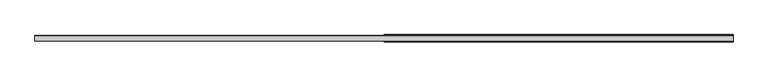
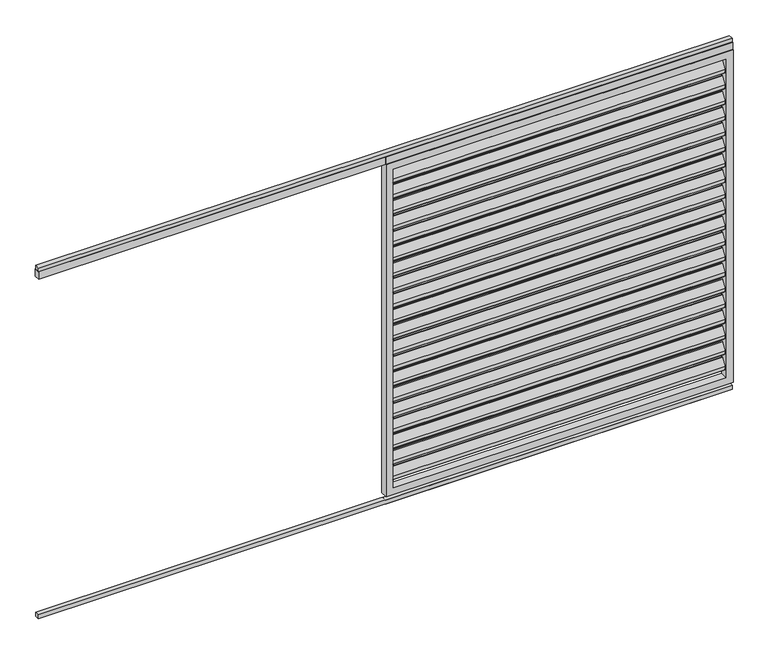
"""IFC4 building model written with IfcOpenShell, lengths in millimetres: proxy geometry, Renson_Algarve_Loggia_Paro_Aluminium : Renson_Algarve_Loggia_Paro_Aluminium."""

import ifcopenshell
import ifcopenshell.guid

model = None  # the IFC model being written
_history = None  # IfcOwnerHistory: only IFC2X3 demands one
_inside = {}  # id of a spatial element -> (the spatial element, [elements in it])
_under = {}  # id of a project, library or spatial element -> (it, [spatial elements below it])
_declared = {}  # id of a project -> (the project, [libraries it declares])
_typed = {}  # id of a type object -> (the type object, [elements of that type])
_made_of = {}  # id of a material, layer set ... -> (it, [elements and type objects made of it])


def new_model(schema):
    """Start an empty IFC model of exactly this schema.

    Asked for "IFC4X3", IfcOpenShell would pick the latest addendum, in which some entities
    have other attributes; the version numbers below select the first issue.
    IFC2X3 requires an IfcOwnerHistory on every rooted entity: one is made here for all.
    """
    global model, _history
    if schema == "IFC4X3":
        model = ifcopenshell.file(schema_version=(4, 3, 0, 0))
    else:
        model = ifcopenshell.file(schema=schema)
    _inside.clear()
    _under.clear()
    _declared.clear()
    _typed.clear()
    _made_of.clear()
    _history = None
    if model.schema == "IFC2X3":
        org = make("IfcOrganization", Name="unknown")
        user = make(
            "IfcPersonAndOrganization",
            ThePerson=make("IfcPerson", FamilyName="unknown"),
            TheOrganization=org,
        )
        app = make(
            "IfcApplication",
            ApplicationDeveloper=org,
            Version="unknown",
            ApplicationFullName="unknown",
            ApplicationIdentifier="unknown",
        )
        _history = make(
            "IfcOwnerHistory",
            OwningUser=user,
            OwningApplication=app,
            ChangeAction="ADDED",
            CreationDate=0,
        )
    return model


def make(cls, **values):
    """One entity of the class cls with the attributes given. An attribute that is None is left unset."""
    return model.create_entity(
        cls, **{name: value for name, value in values.items() if value is not None}
    )


def rooted(cls, **values):
    """An entity with a GlobalId (a new one), such as an element, a storey or a relation."""
    return make(cls, GlobalId=ifcopenshell.guid.new(), OwnerHistory=_history, **values)


def si_unit(unit_type, name, prefix=None):
    """IfcSIUnit, for example si_unit("LENGTHUNIT", "METRE", prefix="MILLI")."""
    return make("IfcSIUnit", UnitType=unit_type, Prefix=prefix, Name=name)


def assignment(units):
    """IfcUnitAssignment: the units of a project."""
    return None if units is None else make("IfcUnitAssignment", Units=units)


def point(xyz):
    """IfcCartesianPoint."""
    return None if xyz is None else make("IfcCartesianPoint", Coordinates=xyz)


def direction(xyz):
    """IfcDirection."""
    return None if xyz is None else make("IfcDirection", DirectionRatios=xyz)


def frame(location, z_axis=None, x_axis=None):
    """IfcAxis2Placement3D, a coordinate frame: its origin and axes. An axis left out is left unset."""
    return make(
        "IfcAxis2Placement3D",
        Location=point(location),
        Axis=direction(z_axis),
        RefDirection=direction(x_axis),
    )


def frame_2d(location, x_axis=None):
    """IfcAxis2Placement2D, a coordinate frame in the plane: its origin and x axis."""
    return make(
        "IfcAxis2Placement2D", Location=point(location), RefDirection=direction(x_axis)
    )


def origin():
    """The frame at (0, 0, 0) with its axes left unset."""
    return frame((0.0, 0.0, 0.0))


def origin_with_axes():
    """The frame at (0, 0, 0) with the z axis (0, 0, 1) and the x axis (1, 0, 0) written out."""
    return frame((0.0, 0.0, 0.0), z_axis=(0.0, 0.0, 1.0), x_axis=(1.0, 0.0, 0.0))


def place(relative_to, where):
    """IfcLocalPlacement: puts the frame where relative to a parent placement (None: the world)."""
    return make(
        "IfcLocalPlacement", PlacementRelTo=relative_to, RelativePlacement=where
    )


def context(
    kind, dimensions, precision=None, world=None, true_north=None, identifier=None
):
    """IfcGeometricRepresentationContext, for example the 3D "Model" context."""
    return make(
        "IfcGeometricRepresentationContext",
        ContextIdentifier=identifier,
        ContextType=kind,
        CoordinateSpaceDimension=dimensions,
        Precision=precision,
        WorldCoordinateSystem=world,
        TrueNorth=true_north,
    )


def project(units=None, contexts=None):
    """IfcProject with its units and contexts."""
    return rooted(
        "IfcProject",
        Name="project",
        RepresentationContexts=contexts,
        UnitsInContext=assignment(units),
    )


def spatial(cls, under=None, at=None, **own):
    """A site, building, storey or space (cls), placed at a placement, below another one or the project."""
    s = rooted(cls, ObjectPlacement=at, **own)
    if under is not None:
        _under.setdefault(under.id(), (under, []))[1].append(s)
    return s


def polyline(points):
    """IfcPolyline through the points."""
    return make("IfcPolyline", Points=[point(p) for p in points])


def circle_curve(where, radius):
    """IfcCircle in the frame where."""
    return make("IfcCircle", Position=where, Radius=radius)


def trimmed(basis, trim1, trim2, sense, master):
    """IfcTrimmedCurve: the piece of a basis curve between two trims."""
    return make(
        "IfcTrimmedCurve",
        BasisCurve=basis,
        Trim1=trim1,
        Trim2=trim2,
        SenseAgreement=sense,
        MasterRepresentation=master,
    )


def segment(curve, same_sense, transition):
    """IfcCompositeCurveSegment."""
    return make(
        "IfcCompositeCurveSegment",
        Transition=transition,
        SameSense=same_sense,
        ParentCurve=curve,
    )


def composite_curve(segments, self_intersect=None):
    """IfcCompositeCurve: segments joined end to end."""
    return make("IfcCompositeCurve", Segments=segments, SelfIntersect=self_intersect)


def outline(outer, holes=None, kind="AREA"):
    """IfcArbitraryClosedProfileDef: a profile drawn as a closed curve; with holes, ...WithVoids."""
    if holes is None:
        return make("IfcArbitraryClosedProfileDef", ProfileType=kind, OuterCurve=outer)
    return make(
        "IfcArbitraryProfileDefWithVoids",
        ProfileType=kind,
        OuterCurve=outer,
        InnerCurves=holes,
    )


def extrude(swept, where, along, depth):
    """IfcExtrudedAreaSolid: the profile swept, set in the frame where, extruded along a direction by depth."""
    return make(
        "IfcExtrudedAreaSolid",
        SweptArea=swept,
        Position=where,
        ExtrudedDirection=direction(along),
        Depth=depth,
    )


def shape(context_of_items, identifier, shape_type, items):
    """IfcShapeRepresentation: the items that make up one representation, for example the "Body"."""
    return make(
        "IfcShapeRepresentation",
        ContextOfItems=context_of_items,
        RepresentationIdentifier=identifier,
        RepresentationType=shape_type,
        Items=items,
    )


def source(mapping_origin, context_of_items, identifier, shape_type, items):
    """IfcRepresentationMap: a shape defined once, which mapped items show again and again."""
    return make(
        "IfcRepresentationMap",
        MappingOrigin=mapping_origin,
        MappedRepresentation=shape(context_of_items, identifier, shape_type, items),
    )


def transform(
    local_origin,
    x_axis=None,
    y_axis=None,
    z_axis=None,
    scale=None,
    scale2=None,
    scale3=None,
    uniform=True,
):
    """IfcCartesianTransformationOperator3D, or its non-uniform kind. x_axis, y_axis, z_axis: its Axis1, 2, 3."""
    if uniform:
        return make(
            "IfcCartesianTransformationOperator3D",
            Axis1=direction(x_axis),
            Axis2=direction(y_axis),
            LocalOrigin=point(local_origin),
            Scale=scale,
            Axis3=direction(z_axis),
        )
    return make(
        "IfcCartesianTransformationOperator3DnonUniform",
        Axis1=direction(x_axis),
        Axis2=direction(y_axis),
        LocalOrigin=point(local_origin),
        Scale=scale,
        Axis3=direction(z_axis),
        Scale2=scale2,
        Scale3=scale3,
    )


def mapped(mapping_source, mapping_target):
    """IfcMappedItem: shows the shape of a source again, moved by a transform."""
    return make(
        "IfcMappedItem", MappingSource=mapping_source, MappingTarget=mapping_target
    )


def made_of(thing, what):
    """Note that an element or type object is made of a material, layer set ...; save() writes the relation."""
    if what is not None:
        _made_of.setdefault(what.id(), (what, []))[1].append(thing)
    return thing


def element(
    cls,
    number,
    at=None,
    inside=None,
    cuts=None,
    type_object=None,
    material=None,
    context=None,
    identifier="Body",
    shape_type=None,
    held_by="IfcProductDefinitionShape",
    body=None,
    shapes=None,
    **own,
):
    """One element of the class cls, such as IfcWall. Its Tag is "e" and its number.

    at: its placement. inside: the storey or other place that contains it. cuts: it is an
    opening in that element (IfcRelVoidsElement). A single representation is given by context,
    identifier, shape_type and body (its items); several are given by shapes. held_by: the class
    of the entity that holds the representations. save() writes the other relations.
    """
    e = rooted(cls, Tag="e%d" % number, ObjectPlacement=at, **own)
    if body is not None:
        shapes = [shape(context, identifier, shape_type, body)]
    if shapes is not None:
        e.Representation = make(held_by, Representations=shapes)
    if inside is not None:
        _inside.setdefault(inside.id(), (inside, []))[1].append(e)
    if cuts is not None:
        rooted(
            "IfcRelVoidsElement", RelatingBuildingElement=cuts, RelatedOpeningElement=e
        )
    if type_object is not None:
        _typed.setdefault(type_object.id(), (type_object, []))[1].append(e)
    return made_of(e, material)


def aggregate(whole, parts):
    """IfcRelAggregates: a whole, such as a stair, and the parts it consists of."""
    return rooted("IfcRelAggregates", RelatingObject=whole, RelatedObjects=parts)


def save(model, path):
    """Write the relations noted so far, then the file.

    IfcRelAggregates (storeys below a building ...), IfcRelContainedInSpatialStructure (elements
    in a storey), IfcRelDefinesByType, IfcRelAssociatesMaterial and IfcRelDeclares: one each for
    every whole, place, type object, material and project.
    """
    for whole, parts in _under.values():
        aggregate(whole, parts)
    for where, things in _inside.values():
        rooted(
            "IfcRelContainedInSpatialStructure",
            RelatedElements=things,
            RelatingStructure=where,
        )
    for kind, things in _typed.values():
        rooted("IfcRelDefinesByType", RelatedObjects=things, RelatingType=kind)
    for what, things in _made_of.values():
        rooted("IfcRelAssociatesMaterial", RelatedObjects=things, RelatingMaterial=what)
    for by, libraries in _declared.values():
        rooted("IfcRelDeclares", RelatingContext=by, RelatedDefinitions=libraries)
    model.write(path)


def generic_models_5f8b4816(model_context):
    return source(origin(), model_context, "Body", "SweptSolid", [
        extrude(outline(composite_curve([segment(trimmed(circle_curve(frame_2d((12.6675921, 1892.6587719)), 3.0), [point((10.1515804, 1894.292689))], [point((15.6675921, 1892.6587719))], False, "CARTESIAN"), True, "CONTINUOUS"), segment(polyline([(15.6675921, 1892.6587719), (15.6675921, 1874.2979873)]), True, "CONTINUOUS"), segment(trimmed(circle_curve(frame_2d((12.6675921, 1874.2979873)), 3.0), [point((15.6675921, 1874.2979873))], [point((15.1836038, 1872.6640702))], False, "CARTESIAN"), True, "CONTINUOUS"), segment(polyline([(15.1836038, 1872.6640702), (-8.8163962, 1835.707311)]), True, "CONTINUOUS"), segment(trimmed(circle_curve(frame_2d((-11.3324079, 1837.3412281)), 3.0), [point((-8.8163962, 1835.707311))], [point((-14.3324079, 1837.3412281))], False, "CARTESIAN"), True, "CONTINUOUS"), segment(polyline([(-14.3324079, 1837.3412281), (-14.3324079, 1856.5906532), (10.1515804, 1894.292689)]), True, "CONTINUOUS")], self_intersect=False)), frame((-905.0, 0.0, 0.0), z_axis=(1.0, 0.0, 0.0), x_axis=(0.0, 1.0, 0.0)), (0.0, 0.0, 1.0), 1810.0),
        extrude(outline(composite_curve([segment(trimmed(circle_curve(frame_2d((12.6675921, 1802.6587719)), 3.0), [point((10.1515804, 1804.292689))], [point((15.6675921, 1802.6587719))], False, "CARTESIAN"), True, "CONTINUOUS"), segment(polyline([(15.6675921, 1802.6587719), (15.6675921, 1784.2979873)]), True, "CONTINUOUS"), segment(trimmed(circle_curve(frame_2d((12.6675921, 1784.2979873)), 3.0), [point((15.6675921, 1784.2979873))], [point((15.1836038, 1782.6640702))], False, "CARTESIAN"), True, "CONTINUOUS"), segment(polyline([(15.1836038, 1782.6640702), (-8.8163962, 1745.707311)]), True, "CONTINUOUS"), segment(trimmed(circle_curve(frame_2d((-11.3324079, 1747.3412281)), 3.0), [point((-8.8163962, 1745.707311))], [point((-14.3324079, 1747.3412281))], False, "CARTESIAN"), True, "CONTINUOUS"), segment(polyline([(-14.3324079, 1747.3412281), (-14.3324079, 1766.5906532), (10.1515804, 1804.292689)]), True, "CONTINUOUS")], self_intersect=False)), frame((-905.0, 0.0, 0.0), z_axis=(1.0, 0.0, 0.0), x_axis=(0.0, 1.0, 0.0)), (0.0, 0.0, 1.0), 1810.0),
        extrude(outline(composite_curve([segment(trimmed(circle_curve(frame_2d((12.6675921, 1712.6587719)), 3.0), [point((10.1515804, 1714.292689))], [point((15.6675921, 1712.6587719))], False, "CARTESIAN"), True, "CONTINUOUS"), segment(polyline([(15.6675921, 1712.6587719), (15.6675921, 1694.2979873)]), True, "CONTINUOUS"), segment(trimmed(circle_curve(frame_2d((12.6675921, 1694.2979873)), 3.0), [point((15.6675921, 1694.2979873))], [point((15.1836038, 1692.6640702))], False, "CARTESIAN"), True, "CONTINUOUS"), segment(polyline([(15.1836038, 1692.6640702), (-8.8163962, 1655.707311)]), True, "CONTINUOUS"), segment(trimmed(circle_curve(frame_2d((-11.3324079, 1657.3412281)), 3.0), [point((-8.8163962, 1655.707311))], [point((-14.3324079, 1657.3412281))], False, "CARTESIAN"), True, "CONTINUOUS"), segment(polyline([(-14.3324079, 1657.3412281), (-14.3324079, 1676.5906532), (10.1515804, 1714.292689)]), True, "CONTINUOUS")], self_intersect=False)), frame((-905.0, 0.0, 0.0), z_axis=(1.0, 0.0, 0.0), x_axis=(0.0, 1.0, 0.0)), (0.0, 0.0, 1.0), 1810.0),
        extrude(outline(composite_curve([segment(trimmed(circle_curve(frame_2d((12.6675921, 1622.6587719)), 3.0), [point((10.1515804, 1624.292689))], [point((15.6675921, 1622.6587719))], False, "CARTESIAN"), True, "CONTINUOUS"), segment(polyline([(15.6675921, 1622.6587719), (15.6675921, 1604.2979873)]), True, "CONTINUOUS"), segment(trimmed(circle_curve(frame_2d((12.6675921, 1604.2979873)), 3.0), [point((15.6675921, 1604.2979873))], [point((15.1836038, 1602.6640702))], False, "CARTESIAN"), True, "CONTINUOUS"), segment(polyline([(15.1836038, 1602.6640702), (-8.8163962, 1565.707311)]), True, "CONTINUOUS"), segment(trimmed(circle_curve(frame_2d((-11.3324079, 1567.3412281)), 3.0), [point((-8.8163962, 1565.707311))], [point((-14.3324079, 1567.3412281))], False, "CARTESIAN"), True, "CONTINUOUS"), segment(polyline([(-14.3324079, 1567.3412281), (-14.3324079, 1586.5906532), (10.1515804, 1624.292689)]), True, "CONTINUOUS")], self_intersect=False)), frame((-905.0, 0.0, 0.0), z_axis=(1.0, 0.0, 0.0), x_axis=(0.0, 1.0, 0.0)), (0.0, 0.0, 1.0), 1810.0),
        extrude(outline(composite_curve([segment(trimmed(circle_curve(frame_2d((12.6675921, 1532.6587719)), 3.0), [point((10.1515804, 1534.292689))], [point((15.6675921, 1532.6587719))], False, "CARTESIAN"), True, "CONTINUOUS"), segment(polyline([(15.6675921, 1532.6587719), (15.6675921, 1514.2979873)]), True, "CONTINUOUS"), segment(trimmed(circle_curve(frame_2d((12.6675921, 1514.2979873)), 3.0), [point((15.6675921, 1514.2979873))], [point((15.1836038, 1512.6640702))], False, "CARTESIAN"), True, "CONTINUOUS"), segment(polyline([(15.1836038, 1512.6640702), (-8.8163962, 1475.707311)]), True, "CONTINUOUS"), segment(trimmed(circle_curve(frame_2d((-11.3324079, 1477.3412281)), 3.0), [point((-8.8163962, 1475.707311))], [point((-14.3324079, 1477.3412281))], False, "CARTESIAN"), True, "CONTINUOUS"), segment(polyline([(-14.3324079, 1477.3412281), (-14.3324079, 1496.5906532), (10.1515804, 1534.292689)]), True, "CONTINUOUS")], self_intersect=False)), frame((-905.0, 0.0, 0.0), z_axis=(1.0, 0.0, 0.0), x_axis=(0.0, 1.0, 0.0)), (0.0, 0.0, 1.0), 1810.0),
        extrude(outline(composite_curve([segment(trimmed(circle_curve(frame_2d((12.6675921, 1442.6587719)), 3.0), [point((10.1515804, 1444.292689))], [point((15.6675921, 1442.6587719))], False, "CARTESIAN"), True, "CONTINUOUS"), segment(polyline([(15.6675921, 1442.6587719), (15.6675921, 1424.2979873)]), True, "CONTINUOUS"), segment(trimmed(circle_curve(frame_2d((12.6675921, 1424.2979873)), 3.0), [point((15.6675921, 1424.2979873))], [point((15.1836038, 1422.6640702))], False, "CARTESIAN"), True, "CONTINUOUS"), segment(polyline([(15.1836038, 1422.6640702), (-8.8163962, 1385.707311)]), True, "CONTINUOUS"), segment(trimmed(circle_curve(frame_2d((-11.3324079, 1387.3412281)), 3.0), [point((-8.8163962, 1385.707311))], [point((-14.3324079, 1387.3412281))], False, "CARTESIAN"), True, "CONTINUOUS"), segment(polyline([(-14.3324079, 1387.3412281), (-14.3324079, 1406.5906532), (10.1515804, 1444.292689)]), True, "CONTINUOUS")], self_intersect=False)), frame((-905.0, 0.0, 0.0), z_axis=(1.0, 0.0, 0.0), x_axis=(0.0, 1.0, 0.0)), (0.0, 0.0, 1.0), 1810.0),
        extrude(outline(composite_curve([segment(trimmed(circle_curve(frame_2d((12.6675921, 1352.6587719)), 3.0), [point((10.1515804, 1354.292689))], [point((15.6675921, 1352.6587719))], False, "CARTESIAN"), True, "CONTINUOUS"), segment(polyline([(15.6675921, 1352.6587719), (15.6675921, 1334.2979873)]), True, "CONTINUOUS"), segment(trimmed(circle_curve(frame_2d((12.6675921, 1334.2979873)), 3.0), [point((15.6675921, 1334.2979873))], [point((15.1836038, 1332.6640702))], False, "CARTESIAN"), True, "CONTINUOUS"), segment(polyline([(15.1836038, 1332.6640702), (-8.8163962, 1295.707311)]), True, "CONTINUOUS"), segment(trimmed(circle_curve(frame_2d((-11.3324079, 1297.3412281)), 3.0), [point((-8.8163962, 1295.707311))], [point((-14.3324079, 1297.3412281))], False, "CARTESIAN"), True, "CONTINUOUS"), segment(polyline([(-14.3324079, 1297.3412281), (-14.3324079, 1316.5906532), (10.1515804, 1354.292689)]), True, "CONTINUOUS")], self_intersect=False)), frame((-905.0, 0.0, 0.0), z_axis=(1.0, 0.0, 0.0), x_axis=(0.0, 1.0, 0.0)), (0.0, 0.0, 1.0), 1810.0),
        extrude(outline(composite_curve([segment(trimmed(circle_curve(frame_2d((12.6675921, 1262.6587719)), 3.0), [point((10.1515804, 1264.292689))], [point((15.6675921, 1262.6587719))], False, "CARTESIAN"), True, "CONTINUOUS"), segment(polyline([(15.6675921, 1262.6587719), (15.6675921, 1244.2979873)]), True, "CONTINUOUS"), segment(trimmed(circle_curve(frame_2d((12.6675921, 1244.2979873)), 3.0), [point((15.6675921, 1244.2979873))], [point((15.1836038, 1242.6640702))], False, "CARTESIAN"), True, "CONTINUOUS"), segment(polyline([(15.1836038, 1242.6640702), (-8.8163962, 1205.707311)]), True, "CONTINUOUS"), segment(trimmed(circle_curve(frame_2d((-11.3324079, 1207.3412281)), 3.0), [point((-8.8163962, 1205.707311))], [point((-14.3324079, 1207.3412281))], False, "CARTESIAN"), True, "CONTINUOUS"), segment(polyline([(-14.3324079, 1207.3412281), (-14.3324079, 1226.5906532), (10.1515804, 1264.292689)]), True, "CONTINUOUS")], self_intersect=False)), frame((-905.0, 0.0, 0.0), z_axis=(1.0, 0.0, 0.0), x_axis=(0.0, 1.0, 0.0)), (0.0, 0.0, 1.0), 1810.0),
        extrude(outline(composite_curve([segment(trimmed(circle_curve(frame_2d((12.6675921, 1172.6587719)), 3.0), [point((10.1515804, 1174.292689))], [point((15.6675921, 1172.6587719))], False, "CARTESIAN"), True, "CONTINUOUS"), segment(polyline([(15.6675921, 1172.6587719), (15.6675921, 1154.2979873)]), True, "CONTINUOUS"), segment(trimmed(circle_curve(frame_2d((12.6675921, 1154.2979873)), 3.0), [point((15.6675921, 1154.2979873))], [point((15.1836038, 1152.6640702))], False, "CARTESIAN"), True, "CONTINUOUS"), segment(polyline([(15.1836038, 1152.6640702), (-8.8163962, 1115.707311)]), True, "CONTINUOUS"), segment(trimmed(circle_curve(frame_2d((-11.3324079, 1117.3412281)), 3.0), [point((-8.8163962, 1115.707311))], [point((-14.3324079, 1117.3412281))], False, "CARTESIAN"), True, "CONTINUOUS"), segment(polyline([(-14.3324079, 1117.3412281), (-14.3324079, 1136.5906532), (10.1515804, 1174.292689)]), True, "CONTINUOUS")], self_intersect=False)), frame((-905.0, 0.0, 0.0), z_axis=(1.0, 0.0, 0.0), x_axis=(0.0, 1.0, 0.0)), (0.0, 0.0, 1.0), 1810.0),
        extrude(outline(composite_curve([segment(trimmed(circle_curve(frame_2d((12.6675921, 1082.6587719)), 3.0), [point((10.1515804, 1084.292689))], [point((15.6675921, 1082.6587719))], False, "CARTESIAN"), True, "CONTINUOUS"), segment(polyline([(15.6675921, 1082.6587719), (15.6675921, 1064.2979873)]), True, "CONTINUOUS"), segment(trimmed(circle_curve(frame_2d((12.6675921, 1064.2979873)), 3.0), [point((15.6675921, 1064.2979873))], [point((15.1836038, 1062.6640702))], False, "CARTESIAN"), True, "CONTINUOUS"), segment(polyline([(15.1836038, 1062.6640702), (-8.8163962, 1025.707311)]), True, "CONTINUOUS"), segment(trimmed(circle_curve(frame_2d((-11.3324079, 1027.3412281)), 3.0), [point((-8.8163962, 1025.707311))], [point((-14.3324079, 1027.3412281))], False, "CARTESIAN"), True, "CONTINUOUS"), segment(polyline([(-14.3324079, 1027.3412281), (-14.3324079, 1046.5906532), (10.1515804, 1084.292689)]), True, "CONTINUOUS")], self_intersect=False)), frame((-905.0, 0.0, 0.0), z_axis=(1.0, 0.0, 0.0), x_axis=(0.0, 1.0, 0.0)), (0.0, 0.0, 1.0), 1810.0),
        extrude(outline(composite_curve([segment(trimmed(circle_curve(frame_2d((12.6675921, 992.6587719)), 3.0), [point((10.1515804, 994.292689))], [point((15.6675921, 992.6587719))], False, "CARTESIAN"), True, "CONTINUOUS"), segment(polyline([(15.6675921, 992.6587719), (15.6675921, 974.2979873)]), True, "CONTINUOUS"), segment(trimmed(circle_curve(frame_2d((12.6675921, 974.2979873)), 3.0), [point((15.6675921, 974.2979873))], [point((15.1836038, 972.6640702))], False, "CARTESIAN"), True, "CONTINUOUS"), segment(polyline([(15.1836038, 972.6640702), (-8.8163962, 935.707311)]), True, "CONTINUOUS"), segment(trimmed(circle_curve(frame_2d((-11.3324079, 937.3412281)), 3.0), [point((-8.8163962, 935.707311))], [point((-14.3324079, 937.3412281))], False, "CARTESIAN"), True, "CONTINUOUS"), segment(polyline([(-14.3324079, 937.3412281), (-14.3324079, 956.5906532), (10.1515804, 994.292689)]), True, "CONTINUOUS")], self_intersect=False)), frame((-905.0, 0.0, 0.0), z_axis=(1.0, 0.0, 0.0), x_axis=(0.0, 1.0, 0.0)), (0.0, 0.0, 1.0), 1810.0),
        extrude(outline(composite_curve([segment(trimmed(circle_curve(frame_2d((12.6675921, 902.6587719)), 3.0), [point((10.1515804, 904.292689))], [point((15.6675921, 902.6587719))], False, "CARTESIAN"), True, "CONTINUOUS"), segment(polyline([(15.6675921, 902.6587719), (15.6675921, 884.2979873)]), True, "CONTINUOUS"), segment(trimmed(circle_curve(frame_2d((12.6675921, 884.2979873)), 3.0), [point((15.6675921, 884.2979873))], [point((15.1836038, 882.6640702))], False, "CARTESIAN"), True, "CONTINUOUS"), segment(polyline([(15.1836038, 882.6640702), (-8.8163962, 845.707311)]), True, "CONTINUOUS"), segment(trimmed(circle_curve(frame_2d((-11.3324079, 847.3412281)), 3.0), [point((-8.8163962, 845.707311))], [point((-14.3324079, 847.3412281))], False, "CARTESIAN"), True, "CONTINUOUS"), segment(polyline([(-14.3324079, 847.3412281), (-14.3324079, 866.5906532), (10.1515804, 904.292689)]), True, "CONTINUOUS")], self_intersect=False)), frame((-905.0, 0.0, 0.0), z_axis=(1.0, 0.0, 0.0), x_axis=(0.0, 1.0, 0.0)), (0.0, 0.0, 1.0), 1810.0),
        extrude(outline(composite_curve([segment(trimmed(circle_curve(frame_2d((12.6675921, 812.6587719)), 3.0), [point((10.1515804, 814.292689))], [point((15.6675921, 812.6587719))], False, "CARTESIAN"), True, "CONTINUOUS"), segment(polyline([(15.6675921, 812.6587719), (15.6675921, 794.2979873)]), True, "CONTINUOUS"), segment(trimmed(circle_curve(frame_2d((12.6675921, 794.2979873)), 3.0), [point((15.6675921, 794.2979873))], [point((15.1836038, 792.6640702))], False, "CARTESIAN"), True, "CONTINUOUS"), segment(polyline([(15.1836038, 792.6640702), (-8.8163962, 755.707311)]), True, "CONTINUOUS"), segment(trimmed(circle_curve(frame_2d((-11.3324079, 757.3412281)), 3.0), [point((-8.8163962, 755.707311))], [point((-14.3324079, 757.3412281))], False, "CARTESIAN"), True, "CONTINUOUS"), segment(polyline([(-14.3324079, 757.3412281), (-14.3324079, 776.5906532), (10.1515804, 814.292689)]), True, "CONTINUOUS")], self_intersect=False)), frame((-905.0, 0.0, 0.0), z_axis=(1.0, 0.0, 0.0), x_axis=(0.0, 1.0, 0.0)), (0.0, 0.0, 1.0), 1810.0),
        extrude(outline(composite_curve([segment(trimmed(circle_curve(frame_2d((12.6675921, 722.6587719)), 3.0), [point((10.1515804, 724.292689))], [point((15.6675921, 722.6587719))], False, "CARTESIAN"), True, "CONTINUOUS"), segment(polyline([(15.6675921, 722.6587719), (15.6675921, 704.2979873)]), True, "CONTINUOUS"), segment(trimmed(circle_curve(frame_2d((12.6675921, 704.2979873)), 3.0), [point((15.6675921, 704.2979873))], [point((15.1836038, 702.6640702))], False, "CARTESIAN"), True, "CONTINUOUS"), segment(polyline([(15.1836038, 702.6640702), (-8.8163962, 665.707311)]), True, "CONTINUOUS"), segment(trimmed(circle_curve(frame_2d((-11.3324079, 667.3412281)), 3.0), [point((-8.8163962, 665.707311))], [point((-14.3324079, 667.3412281))], False, "CARTESIAN"), True, "CONTINUOUS"), segment(polyline([(-14.3324079, 667.3412281), (-14.3324079, 686.5906532), (10.1515804, 724.292689)]), True, "CONTINUOUS")], self_intersect=False)), frame((-905.0, 0.0, 0.0), z_axis=(1.0, 0.0, 0.0), x_axis=(0.0, 1.0, 0.0)), (0.0, 0.0, 1.0), 1810.0),
        extrude(outline(composite_curve([segment(trimmed(circle_curve(frame_2d((12.6675921, 632.6587719)), 3.0), [point((10.1515804, 634.292689))], [point((15.6675921, 632.6587719))], False, "CARTESIAN"), True, "CONTINUOUS"), segment(polyline([(15.6675921, 632.6587719), (15.6675921, 614.2979873)]), True, "CONTINUOUS"), segment(trimmed(circle_curve(frame_2d((12.6675921, 614.2979873)), 3.0), [point((15.6675921, 614.2979873))], [point((15.1836038, 612.6640702))], False, "CARTESIAN"), True, "CONTINUOUS"), segment(polyline([(15.1836038, 612.6640702), (-8.8163962, 575.707311)]), True, "CONTINUOUS"), segment(trimmed(circle_curve(frame_2d((-11.3324079, 577.3412281)), 3.0), [point((-8.8163962, 575.707311))], [point((-14.3324079, 577.3412281))], False, "CARTESIAN"), True, "CONTINUOUS"), segment(polyline([(-14.3324079, 577.3412281), (-14.3324079, 596.5906532), (10.1515804, 634.292689)]), True, "CONTINUOUS")], self_intersect=False)), frame((-905.0, 0.0, 0.0), z_axis=(1.0, 0.0, 0.0), x_axis=(0.0, 1.0, 0.0)), (0.0, 0.0, 1.0), 1810.0),
        extrude(outline(composite_curve([segment(trimmed(circle_curve(frame_2d((12.6675921, 542.6587719)), 3.0), [point((10.1515804, 544.292689))], [point((15.6675921, 542.6587719))], False, "CARTESIAN"), True, "CONTINUOUS"), segment(polyline([(15.6675921, 542.6587719), (15.6675921, 524.2979873)]), True, "CONTINUOUS"), segment(trimmed(circle_curve(frame_2d((12.6675921, 524.2979873)), 3.0), [point((15.6675921, 524.2979873))], [point((15.1836038, 522.6640702))], False, "CARTESIAN"), True, "CONTINUOUS"), segment(polyline([(15.1836038, 522.6640702), (-8.8163962, 485.707311)]), True, "CONTINUOUS"), segment(trimmed(circle_curve(frame_2d((-11.3324079, 487.3412281)), 3.0), [point((-8.8163962, 485.707311))], [point((-14.3324079, 487.3412281))], False, "CARTESIAN"), True, "CONTINUOUS"), segment(polyline([(-14.3324079, 487.3412281), (-14.3324079, 506.5906532), (10.1515804, 544.292689)]), True, "CONTINUOUS")], self_intersect=False)), frame((-905.0, 0.0, 0.0), z_axis=(1.0, 0.0, 0.0), x_axis=(0.0, 1.0, 0.0)), (0.0, 0.0, 1.0), 1810.0),
        extrude(outline(composite_curve([segment(trimmed(circle_curve(frame_2d((12.6675921, 452.6587719)), 3.0), [point((10.1515804, 454.292689))], [point((15.6675921, 452.6587719))], False, "CARTESIAN"), True, "CONTINUOUS"), segment(polyline([(15.6675921, 452.6587719), (15.6675921, 434.2979873)]), True, "CONTINUOUS"), segment(trimmed(circle_curve(frame_2d((12.6675921, 434.2979873)), 3.0), [point((15.6675921, 434.2979873))], [point((15.1836038, 432.6640702))], False, "CARTESIAN"), True, "CONTINUOUS"), segment(polyline([(15.1836038, 432.6640702), (-8.8163962, 395.707311)]), True, "CONTINUOUS"), segment(trimmed(circle_curve(frame_2d((-11.3324079, 397.3412281)), 3.0), [point((-8.8163962, 395.707311))], [point((-14.3324079, 397.3412281))], False, "CARTESIAN"), True, "CONTINUOUS"), segment(polyline([(-14.3324079, 397.3412281), (-14.3324079, 416.5906532), (10.1515804, 454.292689)]), True, "CONTINUOUS")], self_intersect=False)), frame((-905.0, 0.0, 0.0), z_axis=(1.0, 0.0, 0.0), x_axis=(0.0, 1.0, 0.0)), (0.0, 0.0, 1.0), 1810.0),
        extrude(outline(composite_curve([segment(trimmed(circle_curve(frame_2d((12.6675921, 362.6587719)), 3.0), [point((10.1515804, 364.292689))], [point((15.6675921, 362.6587719))], False, "CARTESIAN"), True, "CONTINUOUS"), segment(polyline([(15.6675921, 362.6587719), (15.6675921, 344.2979873)]), True, "CONTINUOUS"), segment(trimmed(circle_curve(frame_2d((12.6675921, 344.2979873)), 3.0), [point((15.6675921, 344.2979873))], [point((15.1836038, 342.6640702))], False, "CARTESIAN"), True, "CONTINUOUS"), segment(polyline([(15.1836038, 342.6640702), (-8.8163962, 305.707311)]), True, "CONTINUOUS"), segment(trimmed(circle_curve(frame_2d((-11.3324079, 307.3412281)), 3.0), [point((-8.8163962, 305.707311))], [point((-14.3324079, 307.3412281))], False, "CARTESIAN"), True, "CONTINUOUS"), segment(polyline([(-14.3324079, 307.3412281), (-14.3324079, 326.5906532), (10.1515804, 364.292689)]), True, "CONTINUOUS")], self_intersect=False)), frame((-905.0, 0.0, 0.0), z_axis=(1.0, 0.0, 0.0), x_axis=(0.0, 1.0, 0.0)), (0.0, 0.0, 1.0), 1810.0),
        extrude(outline(composite_curve([segment(trimmed(circle_curve(frame_2d((12.6675921, 272.6587719)), 3.0), [point((10.1515804, 274.292689))], [point((15.6675921, 272.6587719))], False, "CARTESIAN"), True, "CONTINUOUS"), segment(polyline([(15.6675921, 272.6587719), (15.6675921, 254.2979873)]), True, "CONTINUOUS"), segment(trimmed(circle_curve(frame_2d((12.6675921, 254.2979873)), 3.0), [point((15.6675921, 254.2979873))], [point((15.1836038, 252.6640702))], False, "CARTESIAN"), True, "CONTINUOUS"), segment(polyline([(15.1836038, 252.6640702), (-8.8163962, 215.707311)]), True, "CONTINUOUS"), segment(trimmed(circle_curve(frame_2d((-11.3324079, 217.3412281)), 3.0), [point((-8.8163962, 215.707311))], [point((-14.3324079, 217.3412281))], False, "CARTESIAN"), True, "CONTINUOUS"), segment(polyline([(-14.3324079, 217.3412281), (-14.3324079, 236.5906532), (10.1515804, 274.292689)]), True, "CONTINUOUS")], self_intersect=False)), frame((-905.0, 0.0, 0.0), z_axis=(1.0, 0.0, 0.0), x_axis=(0.0, 1.0, 0.0)), (0.0, 0.0, 1.0), 1810.0),
        extrude(outline(composite_curve([segment(trimmed(circle_curve(frame_2d((12.6675921, 182.6587719)), 3.0), [point((10.1515804, 184.292689))], [point((15.6675921, 182.6587719))], False, "CARTESIAN"), True, "CONTINUOUS"), segment(polyline([(15.6675921, 182.6587719), (15.6675921, 164.2979873)]), True, "CONTINUOUS"), segment(trimmed(circle_curve(frame_2d((12.6675921, 164.2979873)), 3.0), [point((15.6675921, 164.2979873))], [point((15.1836038, 162.6640702))], False, "CARTESIAN"), True, "CONTINUOUS"), segment(polyline([(15.1836038, 162.6640702), (-8.8163962, 125.707311)]), True, "CONTINUOUS"), segment(trimmed(circle_curve(frame_2d((-11.3324079, 127.3412281)), 3.0), [point((-8.8163962, 125.707311))], [point((-14.3324079, 127.3412281))], False, "CARTESIAN"), True, "CONTINUOUS"), segment(polyline([(-14.3324079, 127.3412281), (-14.3324079, 146.5906532), (10.1515804, 184.292689)]), True, "CONTINUOUS")], self_intersect=False)), frame((-905.0, 0.0, 0.0), z_axis=(1.0, 0.0, 0.0), x_axis=(0.0, 1.0, 0.0)), (0.0, 0.0, 1.0), 1810.0),
        extrude(outline(polyline([(945.0, -13.0), (-2835.0, -13.0), (-2835.0, 14.0), (945.0, 14.0), (945.0, -13.0)])), frame((0.0, 0.0, 2000.0), z_axis=(0.0, 0.0, 1.0), x_axis=(1.0, 0.0, 0.0)), (0.0, 0.0, 1.0), 20.0),
        extrude(outline(polyline([(945.0, 15.0), (945.0, -15.0), (-2835.0, -15.0), (-2835.0, 15.0), (945.0, 15.0)])), frame((0.0, 0.0, 1957.7138321), z_axis=(0.0, 0.0, 1.0), x_axis=(1.0, 0.0, 0.0)), (0.0, 0.0, 1.0), 42.2861679),
        extrude(outline(polyline([(945.0, 15.0), (945.0, -15.0), (-945.0, -15.0), (-945.0, 15.0), (945.0, 15.0)])), frame((0.0, 0.0, 1957.7138321), z_axis=(0.0, 0.0, 1.0), x_axis=(1.0, 0.0, 0.0)), (0.0, 0.0, 1.0), 42.2861679),
        extrude(outline(polyline([(945.0, -13.0), (-2835.0, -13.0), (-2835.0, 14.0), (945.0, 14.0), (945.0, -13.0)])), origin_with_axes(), (0.0, 0.0, 1.0), 23.0),
        extrude(outline(polyline([(945.0, -13.0), (-945.0, -13.0), (-945.0, 14.0), (945.0, 14.0), (945.0, -13.0)])), origin_with_axes(), (0.0, 0.0, 1.0), 23.0),
        extrude(outline(polyline([(1957.7138321, -945.0), (45.0, -945.0), (45.0, 945.0), (1957.7138321, 945.0), (1957.7138321, -945.0)]), holes=[polyline([(1917.7138321, 905.0), (85.0, 905.0), (85.0, -905.0), (1917.7138321, -905.0), (1917.7138321, 905.0)])]), frame((0.0, -20.0, 0.0), z_axis=(0.0, 1.0, 0.0), x_axis=(0.0, 0.0, 1.0)), (0.0, 0.0, 1.0), 40.0),
    ])


if __name__ == "__main__":
    model = new_model("IFC4")
    model_context = context("Model", 3, world=origin())
    ifc_project = project(units=[si_unit("LENGTHUNIT", "METRE", prefix="MILLI")], contexts=[model_context])
    site = spatial("IfcSite", under=ifc_project)
    building = spatial("IfcBuilding", under=site)
    placement = place(None, origin())
    generic_models_shape = generic_models_5f8b4816(model_context)
    element("IfcBuildingElementProxy", 1, Name="Renson_Algarve_Loggia_Paro_Aluminium : Renson_Algarve_Loggia_Paro_Aluminium", ObjectType="Renson_Algarve_Loggia_Paro_Aluminium : Renson_Algarve_Loggia_Paro_Aluminium", at=placement, inside=building, context=model_context, shape_type="MappedRepresentation", body=[
        mapped(generic_models_shape, transform((0.0, 0.0, 0.0), x_axis=(1.0, 0.0, 0.0), y_axis=(0.0, 1.0, 0.0), z_axis=(0.0, 0.0, 1.0))),
    ])
    save(model, "model.ifc")
